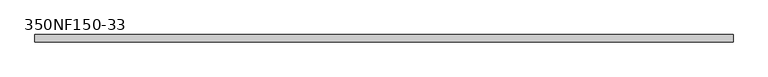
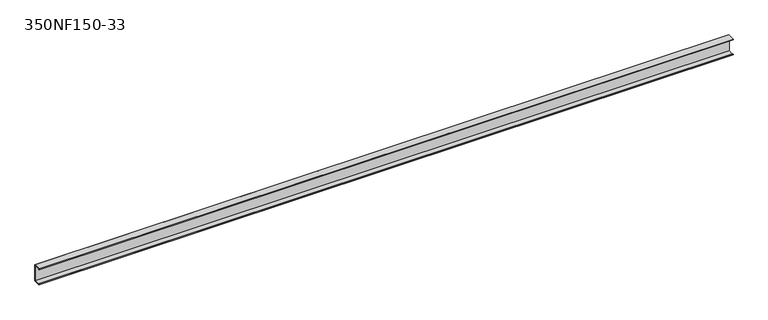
"""IFC4 building model written with IfcOpenShell, lengths in millimetres: beam geometry, BIMSF-SSMA-S : 350NF150-33."""

from ifc_helpers import new_model, si_unit, frame, origin, place, context, project, spatial, polyline, outline, extrude, source, transform, mapped, element, save


def beam_350nf150_33_0c31a938(model_context):
    return source(origin(), model_context, "Body", "SweptSolid", [
        extrude(outline(polyline([(19.05, 44.45), (19.05, -44.45), (-19.05, -44.45), (-19.05, -39.6748), (-18.1676842, -39.6748), (-18.1676842, -43.5676842), (18.1676842, -43.5676842), (18.1676842, 43.5676842), (-18.1676842, 43.5676842), (-18.1676842, 39.6748), (-19.05, 39.6748), (-19.05, 44.45), (19.05, 44.45)])), frame((-1835.15, 0.0, 0.0), z_axis=(1.0, 0.0, 0.0), x_axis=(0.0, 1.0, 0.0)), (0.0, 0.0, 1.0), 3670.3),
    ])


if __name__ == "__main__":
    model = new_model("IFC4")
    model_context = context("Model", 3, world=origin())
    ifc_project = project(units=[si_unit("LENGTHUNIT", "METRE", prefix="MILLI")], contexts=[model_context])
    site = spatial("IfcSite", under=ifc_project)
    building = spatial("IfcBuilding", under=site)
    placement = place(None, origin())
    beam_350nf150_33_shape = beam_350nf150_33_0c31a938(model_context)
    element("IfcBeam", 1, ObjectType="BIMSF-SSMA-S : 350NF150-33", at=placement, inside=building, context=model_context, shape_type="MappedRepresentation", body=[
        mapped(beam_350nf150_33_shape, transform((0.0, 0.0, 0.0), x_axis=(1.0, 0.0, 0.0), y_axis=(0.0, 1.0, 0.0), z_axis=(0.0, 0.0, 1.0))),
    ])
    save(model, "model.ifc")
